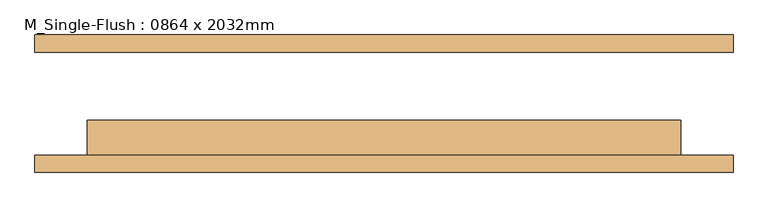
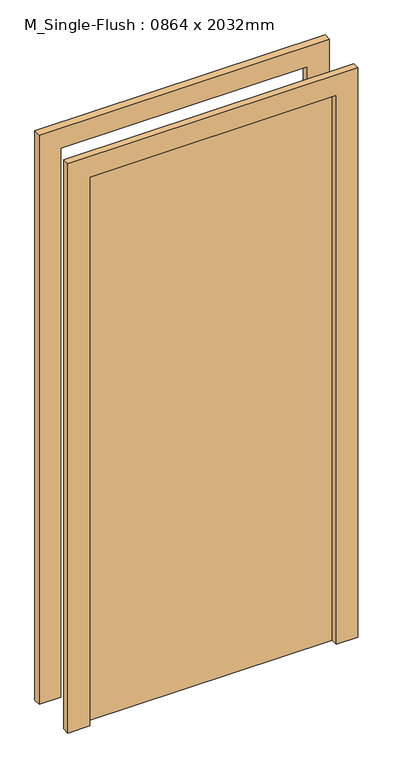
"""IFC4 building model written with IfcOpenShell, lengths in millimetres: door geometry, M_Single-Flush : 0864 x 2032mm."""

from ifc_helpers import new_model, si_unit, frame, origin, origin_with_axes, place, context, project, spatial, polyline, outline, extrude, source, transform, mapped, element, save


def m_single_flush_0864_x_2032mm_5b632350(model_context):
    return source(origin(), model_context, "Body", "SweptSolid", [
        extrude(outline(polyline([(2108.0, -508.0), (0.0, -508.0), (0.0, -432.0), (2032.0, -432.0), (2032.0, 432.0), (0.0, 432.0), (0.0, 508.0), (2108.0, 508.0), (2108.0, -508.0)])), frame((0.0, -100.0, 0.0), z_axis=(0.0, 1.0, 0.0), x_axis=(0.0, 0.0, 1.0)), (0.0, 0.0, 1.0), 25.0),
        extrude(outline(polyline([(2108.0, 508.0), (2108.0, -508.0), (0.0, -508.0), (0.0, -432.0), (2032.0, -432.0), (2032.0, 432.0), (0.0, 432.0), (0.0, 508.0), (2108.0, 508.0)])), frame((0.0, 75.0, 0.0), z_axis=(0.0, 1.0, 0.0), x_axis=(0.0, 0.0, 1.0)), (0.0, 0.0, 1.0), 25.0),
        extrude(outline(polyline([(432.0, -24.0), (432.0, -75.0), (-432.0, -75.0), (-432.0, -24.0), (432.0, -24.0)])), origin_with_axes(), (0.0, 0.0, 1.0), 2032.0),
    ])


if __name__ == "__main__":
    model = new_model("IFC4")
    model_context = context("Model", 3, world=origin())
    ifc_project = project(units=[si_unit("LENGTHUNIT", "METRE", prefix="MILLI")], contexts=[model_context])
    site = spatial("IfcSite", under=ifc_project)
    building = spatial("IfcBuilding", under=site)
    placement = place(None, origin())
    m_single_flush_0864_x_2032mm_shape = m_single_flush_0864_x_2032mm_5b632350(model_context)
    element("IfcDoor", 1, ObjectType="M_Single-Flush : 0864 x 2032mm", at=placement, inside=building, context=model_context, shape_type="MappedRepresentation", body=[
        mapped(m_single_flush_0864_x_2032mm_shape, transform((0.0, 0.0, 0.0), x_axis=(1.0, 0.0, 0.0), y_axis=(0.0, 1.0, 0.0), z_axis=(0.0, 0.0, 1.0))),
    ])
    save(model, "model.ifc")
